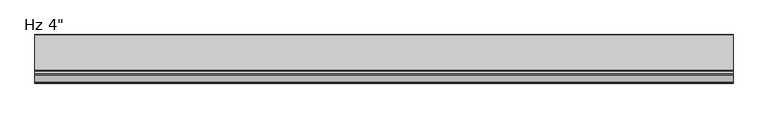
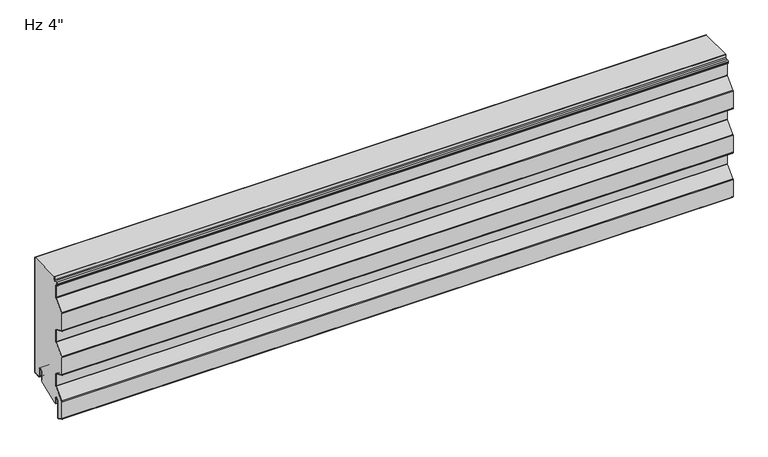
"""IFC4 building model written with IfcOpenShell, lengths in millimetres: plate geometry."""

from ifc_helpers import new_model, si_unit, point, frame, frame_2d, origin, place, context, project, spatial, polyline, circle_curve, trimmed, segment, composite_curve, outline, extrude, source, transform, mapped, element, save


def plate_610f1c4d(model_context):
    return source(origin(), model_context, "Body", "SweptSolid", [
        extrude(outline(composite_curve([segment(polyline([(-26.4011912, 19.05), (-26.4011912, -3.1976612), (-74.633822, -23.01875), (-76.7886912, -23.01875), (-76.7886912, -11.90625)]), True, "CONTINUOUS"), segment(trimmed(circle_curve(frame_2d((-81.7574412, -11.90625)), 4.96875), [point((-76.7886912, -11.90625))], [point((-86.7261912, -11.90625))], True, "CARTESIAN"), True, "CONTINUOUS"), segment(polyline([(-86.7261912, -11.90625), (-86.7261912, -48.8194049)]), True, "CONTINUOUS"), segment(trimmed(circle_curve(frame_2d((-88.1074412, -48.8194049)), 1.38125), [point((-86.7261912, -48.8194049))], [point((-88.6666208, -50.0824052))], False, "CARTESIAN"), True, "CONTINUOUS"), segment(polyline([(-88.6666208, -50.0824052), (-99.7779296, -45.1629946)]), True, "CONTINUOUS"), segment(trimmed(circle_curve(frame_2d((-99.21875, -43.8999943)), 1.38125), [point((-99.7779296, -45.1629946))], [point((-100.6, -43.8999943))], False, "CARTESIAN"), True, "CONTINUOUS"), segment(polyline([(-100.6, -43.8999943), (-100.6, -5.0536946)]), True, "CONTINUOUS"), segment(trimmed(circle_curve(frame_2d((-98.5012, -5.0536946)), 2.0988), [point((-100.6, -5.0536946))], [point((-100.0092077, -3.5939431))], False, "CARTESIAN"), True, "CONTINUOUS"), segment(polyline([(-100.0092077, -3.5939431), (-79.8145567, 17.2682996)]), True, "CONTINUOUS"), segment(trimmed(circle_curve(frame_2d((-81.6737, 19.0679503)), 2.5875), [point((-79.8145567, 17.2682996))], [point((-79.0862, 19.0679503))], True, "CARTESIAN"), True, "CONTINUOUS"), segment(polyline([(-79.0862, 19.0679503), (-79.0862, 45.5917981)]), True, "CONTINUOUS"), segment(trimmed(circle_curve(frame_2d((-81.6737, 45.5917981)), 2.5875), [point((-79.0862, 45.5917981))], [point((-80.6261871, 47.9577806))], True, "CARTESIAN"), True, "CONTINUOUS"), segment(polyline([(-80.6261871, 47.9577806), (-99.7779296, 56.4370054)]), True, "CONTINUOUS"), segment(trimmed(circle_curve(frame_2d((-99.21875, 57.7000057)), 1.38125), [point((-99.7779296, 56.4370054))], [point((-100.6, 57.7000057))], False, "CARTESIAN"), True, "CONTINUOUS"), segment(polyline([(-100.6, 57.7000057), (-100.6, 96.8367131)]), True, "CONTINUOUS"), segment(trimmed(circle_curve(frame_2d((-99.21875, 96.8367131)), 1.38125), [point((-100.6, 96.8367131))], [point((-100.2111912, 97.7973962))], False, "CARTESIAN"), True, "CONTINUOUS"), segment(polyline([(-100.2111912, 97.7973962), (-79.8145567, 118.8682996)]), True, "CONTINUOUS"), segment(trimmed(circle_curve(frame_2d((-81.6737, 120.6679503)), 2.5875), [point((-79.8145567, 118.8682996))], [point((-79.0862, 120.6679503))], True, "CARTESIAN"), True, "CONTINUOUS"), segment(polyline([(-79.0862, 120.6679503), (-79.0862, 147.1917981)]), True, "CONTINUOUS"), segment(trimmed(circle_curve(frame_2d((-81.6737, 147.1917981)), 2.5875), [point((-79.0862, 147.1917981))], [point((-80.6261871, 149.5577806))], True, "CARTESIAN"), True, "CONTINUOUS"), segment(polyline([(-80.6261871, 149.5577806), (-99.7779296, 158.0370054)]), True, "CONTINUOUS"), segment(trimmed(circle_curve(frame_2d((-99.21875, 159.3000057)), 1.38125), [point((-99.7779296, 158.0370054))], [point((-100.6, 159.3000057))], False, "CARTESIAN"), True, "CONTINUOUS"), segment(polyline([(-100.6, 159.3000057), (-100.6, 198.4367131)]), True, "CONTINUOUS"), segment(trimmed(circle_curve(frame_2d((-99.21875, 198.4367131)), 1.38125), [point((-100.6, 198.4367131))], [point((-100.2111912, 199.3973962))], False, "CARTESIAN"), True, "CONTINUOUS"), segment(polyline([(-100.2111912, 199.3973962), (-79.8145567, 220.4682996)]), True, "CONTINUOUS"), segment(trimmed(circle_curve(frame_2d((-81.6737, 222.2679503)), 2.5875), [point((-79.8145567, 220.4682996))], [point((-79.0862, 222.2679503))], True, "CARTESIAN"), True, "CONTINUOUS"), segment(polyline([(-79.0862, 222.2679503), (-79.0862, 248.7917981)]), True, "CONTINUOUS"), segment(trimmed(circle_curve(frame_2d((-81.6737, 248.7917981)), 2.5875), [point((-79.0862, 248.7917981))], [point((-80.6261871, 251.1577806))], True, "CARTESIAN"), True, "CONTINUOUS"), segment(polyline([(-80.6261871, 251.1577806), (-82.3166208, 251.9062016)]), True, "CONTINUOUS"), segment(trimmed(circle_curve(frame_2d((-81.7574412, 253.1692019)), 1.38125), [point((-82.3166208, 251.9062016))], [point((-83.1386912, 253.1692019))], False, "CARTESIAN"), True, "CONTINUOUS"), segment(polyline([(-83.1386912, 253.1692019), (-83.1386912, 255.4967085)]), True, "CONTINUOUS"), segment(trimmed(circle_curve(frame_2d((-81.7574412, 255.4967085)), 1.38125), [point((-83.1386912, 255.4967085))], [point((-81.8297302, 256.8760655))], False, "CARTESIAN"), True, "CONTINUOUS"), segment(polyline([(-81.8297302, 256.8760655), (-76.0657719, 257.1781418)]), True, "CONTINUOUS"), segment(trimmed(circle_curve(frame_2d((-76.2011912, 259.7620957)), 2.5875), [point((-76.0657719, 257.1781418))], [point((-73.6136912, 259.7620957))], True, "CARTESIAN"), True, "CONTINUOUS"), segment(polyline([(-73.6136912, 259.7620957), (-73.6136912, 266.4), (-1.0011912, 266.4), (-1.0011912, 3.175)]), True, "CONTINUOUS"), segment(trimmed(circle_curve(frame_2d((-2.3824412, 3.175)), 1.38125), [point((-1.0011912, 3.175))], [point((-2.3824412, 1.79375))], False, "CARTESIAN"), True, "CONTINUOUS"), segment(polyline([(-2.3824412, 1.79375), (-15.0824412, 1.79375)]), True, "CONTINUOUS"), segment(trimmed(circle_curve(frame_2d((-15.0824412, 3.175)), 1.38125), [point((-15.0824412, 1.79375))], [point((-16.4636912, 3.175))], False, "CARTESIAN"), True, "CONTINUOUS"), segment(polyline([(-16.4636912, 3.175), (-16.4636912, 19.05)]), True, "CONTINUOUS"), segment(trimmed(circle_curve(frame_2d((-21.4324412, 19.05)), 4.96875), [point((-16.4636912, 19.05))], [point((-26.4011912, 19.05))], True, "CARTESIAN"), True, "CONTINUOUS")], self_intersect=False)), frame((-730.0, 0.0, 0.0), z_axis=(1.0, 0.0, 0.0), x_axis=(0.0, 1.0, 0.0)), (0.0, 0.0, 1.0), 1460.0),
        extrude(outline(composite_curve([segment(polyline([(-25.4, 0.79375), (-26.4, 0.79375), (-26.4, 19.05)]), True, "CONTINUOUS"), segment(trimmed(circle_curve(frame_2d((-21.43125, 19.05)), 4.96875), [point((-26.4, 19.05))], [point((-16.4625, 19.05))], False, "CARTESIAN"), True, "CONTINUOUS"), segment(polyline([(-16.4625, 19.05), (-16.4625, 3.175)]), True, "CONTINUOUS"), segment(trimmed(circle_curve(frame_2d((-15.08125, 3.175)), 1.38125), [point((-16.4625, 3.175))], [point((-15.08125, 1.79375))], True, "CARTESIAN"), True, "CONTINUOUS"), segment(polyline([(-15.08125, 1.79375), (-2.38125, 1.79375)]), True, "CONTINUOUS"), segment(trimmed(circle_curve(frame_2d((-2.38125, 3.175)), 1.38125), [point((-2.38125, 1.79375))], [point((-1.0, 3.175))], True, "CARTESIAN"), True, "CONTINUOUS"), segment(polyline([(-1.0, 3.175), (-1.0, 266.4), (0.0, 266.4), (0.0, 3.175)]), True, "CONTINUOUS"), segment(trimmed(circle_curve(frame_2d((-2.38125, 3.175)), 2.38125), [point((0.0, 3.175))], [point((-2.38125, 0.79375))], False, "CARTESIAN"), True, "CONTINUOUS"), segment(polyline([(-2.38125, 0.79375), (-15.08125, 0.79375)]), True, "CONTINUOUS"), segment(trimmed(circle_curve(frame_2d((-15.08125, 3.175)), 2.38125), [point((-15.08125, 0.79375))], [point((-17.4625, 3.175))], False, "CARTESIAN"), True, "CONTINUOUS"), segment(polyline([(-17.4625, 3.175), (-17.4625, 19.05)]), True, "CONTINUOUS"), segment(trimmed(circle_curve(frame_2d((-21.43125, 19.05)), 3.96875), [point((-17.4625, 19.05))], [point((-25.4, 19.05))], True, "CARTESIAN"), True, "CONTINUOUS"), segment(polyline([(-25.4, 19.05), (-25.4, 0.79375)]), True, "CONTINUOUS")], self_intersect=False)), frame((-730.0, 0.0, 0.0), z_axis=(1.0, 0.0, 0.0), x_axis=(0.0, 1.0, 0.0)), (0.0, 0.0, 1.0), 1460.0),
        extrude(outline(composite_curve([segment(polyline([(-85.7261912, -11.90625), (-85.7261912, -48.8194049)]), True, "CONTINUOUS"), segment(trimmed(circle_curve(frame_2d((-88.1074412, -48.8194049)), 2.38125), [point((-85.7261912, -48.8194049))], [point((-89.0714567, -50.9967946))], False, "CARTESIAN"), True, "CONTINUOUS"), segment(polyline([(-89.0714567, -50.9967946), (-100.1827655, -46.0773839)]), True, "CONTINUOUS"), segment(trimmed(circle_curve(frame_2d((-99.21875, -43.8999943)), 2.38125), [point((-100.1827655, -46.0773839))], [point((-101.6, -43.8999943))], False, "CARTESIAN"), True, "CONTINUOUS"), segment(polyline([(-101.6, -43.8999943), (-101.6, -5.0536946)]), True, "CONTINUOUS"), segment(trimmed(circle_curve(frame_2d((-98.5012, -5.0536946)), 3.0988), [point((-101.6, -5.0536946))], [point((-100.7277172, -2.8984259))], False, "CARTESIAN"), True, "CONTINUOUS"), segment(polyline([(-100.7277172, -2.8984259), (-80.5330662, 17.9638168)]), True, "CONTINUOUS"), segment(trimmed(circle_curve(frame_2d((-81.6737, 19.0679503)), 1.5875), [point((-80.5330662, 17.9638168))], [point((-80.0862, 19.0679503))], True, "CARTESIAN"), True, "CONTINUOUS"), segment(polyline([(-80.0862, 19.0679503), (-80.0862, 45.5917981)]), True, "CONTINUOUS"), segment(trimmed(circle_curve(frame_2d((-81.6737, 45.5917981)), 1.5875), [point((-80.0862, 45.5917981))], [point((-81.031023, 47.0433912))], True, "CARTESIAN"), True, "CONTINUOUS"), segment(polyline([(-81.031023, 47.0433912), (-100.1827655, 55.5226161)]), True, "CONTINUOUS"), segment(trimmed(circle_curve(frame_2d((-99.21875, 57.7000057)), 2.38125), [point((-100.1827655, 55.5226161))], [point((-101.6, 57.7000057))], False, "CARTESIAN"), True, "CONTINUOUS"), segment(polyline([(-101.6, 57.7000057), (-101.6, 96.8367131)]), True, "CONTINUOUS"), segment(trimmed(circle_curve(frame_2d((-99.21875, 96.8367131)), 2.38125), [point((-101.6, 96.8367131))], [point((-100.9297007, 98.4929134))], False, "CARTESIAN"), True, "CONTINUOUS"), segment(polyline([(-100.9297007, 98.4929134), (-80.5330662, 119.5638168)]), True, "CONTINUOUS"), segment(trimmed(circle_curve(frame_2d((-81.6737, 120.6679503)), 1.5875), [point((-80.5330662, 119.5638168))], [point((-80.0862, 120.6679503))], True, "CARTESIAN"), True, "CONTINUOUS"), segment(polyline([(-80.0862, 120.6679503), (-80.0862, 147.1917981)]), True, "CONTINUOUS"), segment(trimmed(circle_curve(frame_2d((-81.6737, 147.1917981)), 1.5875), [point((-80.0862, 147.1917981))], [point((-81.031023, 148.6433912))], True, "CARTESIAN"), True, "CONTINUOUS"), segment(polyline([(-81.031023, 148.6433912), (-100.1827655, 157.1226161)]), True, "CONTINUOUS"), segment(trimmed(circle_curve(frame_2d((-99.21875, 159.3000057)), 2.38125), [point((-100.1827655, 157.1226161))], [point((-101.6, 159.3000057))], False, "CARTESIAN"), True, "CONTINUOUS"), segment(polyline([(-101.6, 159.3000057), (-101.6, 198.4367131)]), True, "CONTINUOUS"), segment(trimmed(circle_curve(frame_2d((-99.21875, 198.4367131)), 2.38125), [point((-101.6, 198.4367131))], [point((-100.9297007, 200.0929134))], False, "CARTESIAN"), True, "CONTINUOUS"), segment(polyline([(-100.9297007, 200.0929134), (-80.5330662, 221.1638168)]), True, "CONTINUOUS"), segment(trimmed(circle_curve(frame_2d((-81.6737, 222.2679503)), 1.5875), [point((-80.5330662, 221.1638168))], [point((-80.0862, 222.2679503))], True, "CARTESIAN"), True, "CONTINUOUS"), segment(polyline([(-80.0862, 222.2679503), (-80.0862, 248.7917981)]), True, "CONTINUOUS"), segment(trimmed(circle_curve(frame_2d((-81.6737, 248.7917981)), 1.5875), [point((-80.0862, 248.7917981))], [point((-81.031023, 250.2433912))], True, "CARTESIAN"), True, "CONTINUOUS"), segment(polyline([(-81.031023, 250.2433912), (-82.7214567, 250.9918123)]), True, "CONTINUOUS"), segment(trimmed(circle_curve(frame_2d((-81.7574412, 253.1692019)), 2.38125), [point((-82.7214567, 250.9918123))], [point((-84.1386912, 253.1692019))], False, "CARTESIAN"), True, "CONTINUOUS"), segment(polyline([(-84.1386912, 253.1692019), (-84.1386912, 255.4967085)]), True, "CONTINUOUS"), segment(trimmed(circle_curve(frame_2d((-81.7574412, 255.4967085)), 2.38125), [point((-84.1386912, 255.4967085))], [point((-81.8820662, 257.8746951))], False, "CARTESIAN"), True, "CONTINUOUS"), segment(polyline([(-81.8820662, 257.8746951), (-76.1181078, 258.1767713)]), True, "CONTINUOUS"), segment(trimmed(circle_curve(frame_2d((-76.2011912, 259.7620957)), 1.5875), [point((-76.1181078, 258.1767713))], [point((-74.6136912, 259.7620957))], True, "CARTESIAN"), True, "CONTINUOUS"), segment(polyline([(-74.6136912, 259.7620957), (-74.6136912, 266.4), (-73.6136912, 266.4), (-73.6136912, 259.7620957)]), True, "CONTINUOUS"), segment(trimmed(circle_curve(frame_2d((-76.2011912, 259.7620957)), 2.5875), [point((-73.6136912, 259.7620957))], [point((-76.0657719, 257.1781418))], False, "CARTESIAN"), True, "CONTINUOUS"), segment(polyline([(-76.0657719, 257.1781418), (-81.8297302, 256.8760655)]), True, "CONTINUOUS"), segment(trimmed(circle_curve(frame_2d((-81.7574412, 255.4967085)), 1.38125), [point((-81.8297302, 256.8760655))], [point((-83.1386912, 255.4967085))], True, "CARTESIAN"), True, "CONTINUOUS"), segment(polyline([(-83.1386912, 255.4967085), (-83.1386912, 253.1692019)]), True, "CONTINUOUS"), segment(trimmed(circle_curve(frame_2d((-81.7574412, 253.1692019)), 1.38125), [point((-83.1386912, 253.1692019))], [point((-82.3166208, 251.9062016))], True, "CARTESIAN"), True, "CONTINUOUS"), segment(polyline([(-82.3166208, 251.9062016), (-80.6261871, 251.1577806)]), True, "CONTINUOUS"), segment(trimmed(circle_curve(frame_2d((-81.6737, 248.7917981)), 2.5875), [point((-80.6261871, 251.1577806))], [point((-79.0862, 248.7917981))], False, "CARTESIAN"), True, "CONTINUOUS"), segment(polyline([(-79.0862, 248.7917981), (-79.0862, 222.2679503)]), True, "CONTINUOUS"), segment(trimmed(circle_curve(frame_2d((-81.6737, 222.2679503)), 2.5875), [point((-79.0862, 222.2679503))], [point((-79.8145567, 220.4682996))], False, "CARTESIAN"), True, "CONTINUOUS"), segment(polyline([(-79.8145567, 220.4682996), (-100.2111912, 199.3973962)]), True, "CONTINUOUS"), segment(trimmed(circle_curve(frame_2d((-99.21875, 198.4367131)), 1.38125), [point((-100.2111912, 199.3973962))], [point((-100.6, 198.4367131))], True, "CARTESIAN"), True, "CONTINUOUS"), segment(polyline([(-100.6, 198.4367131), (-100.6, 159.3000057)]), True, "CONTINUOUS"), segment(trimmed(circle_curve(frame_2d((-99.21875, 159.3000057)), 1.38125), [point((-100.6, 159.3000057))], [point((-99.7779296, 158.0370054))], True, "CARTESIAN"), True, "CONTINUOUS"), segment(polyline([(-99.7779296, 158.0370054), (-80.6261871, 149.5577806)]), True, "CONTINUOUS"), segment(trimmed(circle_curve(frame_2d((-81.6737, 147.1917981)), 2.5875), [point((-80.6261871, 149.5577806))], [point((-79.0862, 147.1917981))], False, "CARTESIAN"), True, "CONTINUOUS"), segment(polyline([(-79.0862, 147.1917981), (-79.0862, 120.6679503)]), True, "CONTINUOUS"), segment(trimmed(circle_curve(frame_2d((-81.6737, 120.6679503)), 2.5875), [point((-79.0862, 120.6679503))], [point((-79.8145567, 118.8682996))], False, "CARTESIAN"), True, "CONTINUOUS"), segment(polyline([(-79.8145567, 118.8682996), (-100.2111912, 97.7973962)]), True, "CONTINUOUS"), segment(trimmed(circle_curve(frame_2d((-99.21875, 96.8367131)), 1.38125), [point((-100.2111912, 97.7973962))], [point((-100.6, 96.8367131))], True, "CARTESIAN"), True, "CONTINUOUS"), segment(polyline([(-100.6, 96.8367131), (-100.6, 57.7000057)]), True, "CONTINUOUS"), segment(trimmed(circle_curve(frame_2d((-99.21875, 57.7000057)), 1.38125), [point((-100.6, 57.7000057))], [point((-99.7779296, 56.4370054))], True, "CARTESIAN"), True, "CONTINUOUS"), segment(polyline([(-99.7779296, 56.4370054), (-80.6261871, 47.9577806)]), True, "CONTINUOUS"), segment(trimmed(circle_curve(frame_2d((-81.6737, 45.5917981)), 2.5875), [point((-80.6261871, 47.9577806))], [point((-79.0862, 45.5917981))], False, "CARTESIAN"), True, "CONTINUOUS"), segment(polyline([(-79.0862, 45.5917981), (-79.0862, 19.0679503)]), True, "CONTINUOUS"), segment(trimmed(circle_curve(frame_2d((-81.6737, 19.0679503)), 2.5875), [point((-79.0862, 19.0679503))], [point((-79.8145567, 17.2682996))], False, "CARTESIAN"), True, "CONTINUOUS"), segment(polyline([(-79.8145567, 17.2682996), (-100.0092077, -3.5939431)]), True, "CONTINUOUS"), segment(trimmed(circle_curve(frame_2d((-98.5012, -5.0536946)), 2.0988), [point((-100.0092077, -3.5939431))], [point((-100.6, -5.0536946))], True, "CARTESIAN"), True, "CONTINUOUS"), segment(polyline([(-100.6, -5.0536946), (-100.6, -43.8999943)]), True, "CONTINUOUS"), segment(trimmed(circle_curve(frame_2d((-99.21875, -43.8999943)), 1.38125), [point((-100.6, -43.8999943))], [point((-99.7779296, -45.1629946))], True, "CARTESIAN"), True, "CONTINUOUS"), segment(polyline([(-99.7779296, -45.1629946), (-88.6666208, -50.0824052)]), True, "CONTINUOUS"), segment(trimmed(circle_curve(frame_2d((-88.1074412, -48.8194049)), 1.38125), [point((-88.6666208, -50.0824052))], [point((-86.7261912, -48.8194049))], True, "CARTESIAN"), True, "CONTINUOUS"), segment(polyline([(-86.7261912, -48.8194049), (-86.7261912, -11.90625)]), True, "CONTINUOUS"), segment(trimmed(circle_curve(frame_2d((-81.7574412, -11.90625)), 4.96875), [point((-86.7261912, -11.90625))], [point((-76.7886912, -11.90625))], False, "CARTESIAN"), True, "CONTINUOUS"), segment(polyline([(-76.7886912, -11.90625), (-76.7886912, -23.01875), (-77.7886912, -23.01875), (-77.7886912, -11.90625)]), True, "CONTINUOUS"), segment(trimmed(circle_curve(frame_2d((-81.7574412, -11.90625)), 3.96875), [point((-77.7886912, -11.90625))], [point((-85.7261912, -11.90625))], True, "CARTESIAN"), True, "CONTINUOUS")], self_intersect=False)), frame((-730.0, 0.0, 0.0), z_axis=(1.0, 0.0, 0.0), x_axis=(0.0, 1.0, 0.0)), (0.0, 0.0, 1.0), 1460.0),
    ])


if __name__ == "__main__":
    model = new_model("IFC4")
    model_context = context("Model", 3, world=origin())
    ifc_project = project(units=[si_unit("LENGTHUNIT", "METRE", prefix="MILLI")], contexts=[model_context])
    site = spatial("IfcSite", under=ifc_project)
    building = spatial("IfcBuilding", under=site)
    placement = place(None, origin())
    plate_shape = plate_610f1c4d(model_context)
    element("IfcPlate", 1, ObjectType="KIP-12-DWR-R19-CP-Hz-S : Hz 4\"", at=placement, inside=building, context=model_context, shape_type="MappedRepresentation", body=[
        mapped(plate_shape, transform((0.0, 0.0, 0.0), x_axis=(1.0, 0.0, 0.0), y_axis=(0.0, 1.0, 0.0), z_axis=(0.0, 0.0, 1.0))),
    ])
    save(model, "model.ifc")
